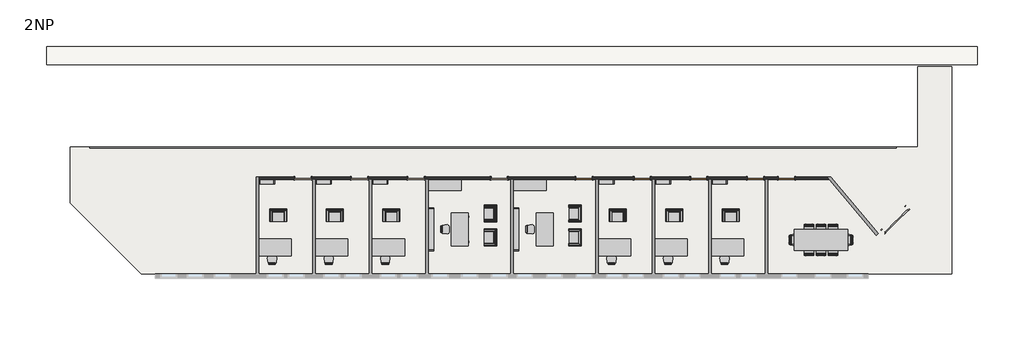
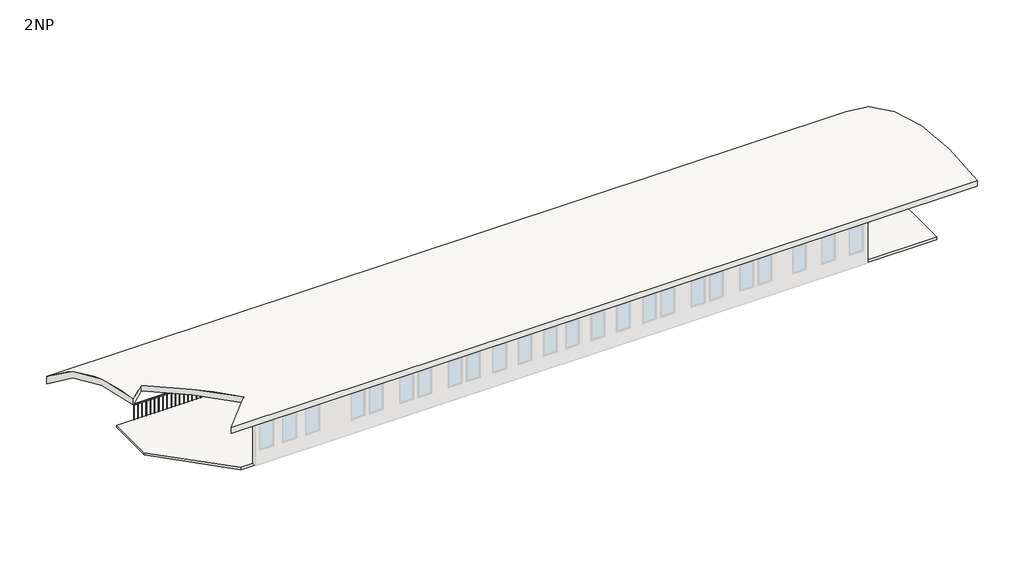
# One storey, part 2 of 2: 45 furniture elements, 5 doors, 1 railing, 1 roof, 1 slab, 1 wall.
"""IFC4 building model written with IfcOpenShell, lengths in millimetres."""

from ifc_helpers import new_model, si_unit, frame, origin, place, context, project, spatial, polyline, circle_curve, ellipse_curve, outline, extrude, faceted_brep, transform, mapped, element, save
from ifc_brep_helpers import plane_surface, cylinder_surface, revolved_surface, advanced_brep
from components import m_single_flush_0915_x_2032mm_1012e85d, m_single_flush_0915_x_2032mm_d7cd756b, chair_desk_4_chair_task_arms_3b363349, chair_desk_5_chair_task_b7f3823b, m_chair_corbu_m_chair_corbu_2764bdef, m_chair_desk_desk_chair_ccc35c8f, m_credenza_1830_x_0610mm_1080a9db, m_desk_1830_x_915mm_d81ff609, m_shelving_0915_x_0254_x_1830mm_1d5e155e, m_shelving_2440_x_0305_x_2134mm_59c1a9e4, table_conference_w_chairs_1200_x_3050mm_930714f4, railing_1100mm_11e5196f, railing_1100mm_f5e6f717

model = new_model("IFC4")

# Units and contexts
model_context = context("Model", 3, world=origin())
ifc_project = project(units=[si_unit("LENGTHUNIT", "METRE", prefix="MILLI")], contexts=[model_context])

# Site, building, storey
site = spatial("IfcSite", under=ifc_project)
building = spatial("IfcBuilding", under=site)
storey = spatial("IfcBuildingStorey", under=building, Name="2NP", Elevation=4000.0)

# Doors
placement = place(None, origin())
m_single_flush_0915_x_2032mm_shape = m_single_flush_0915_x_2032mm_1012e85d(model_context)
element("IfcDoor", 1, ObjectType="M_Single-Flush : 0915 x 2032mm", at=placement, inside=storey, context=model_context, shape_type="MappedRepresentation", body=[
    mapped(m_single_flush_0915_x_2032mm_shape, transform((24162.4255273, 791.5551306, 4000.0), x_axis=(1.0, 0.0, 0.0), y_axis=(0.0, 1.0, 0.0), z_axis=(0.0, 0.0, 1.0))),
])
element("IfcDoor", 2, ObjectType="M_Single-Flush : 0915 x 2032mm", at=placement, inside=storey, context=model_context, shape_type="MappedRepresentation", body=[
    mapped(m_single_flush_0915_x_2032mm_shape, transform((27362.4255273, 791.5551306, 4000.0), x_axis=(1.0, 0.0, 0.0), y_axis=(0.0, 1.0, 0.0), z_axis=(0.0, 0.0, 1.0))),
])
element("IfcDoor", 3, ObjectType="M_Single-Flush : 0915 x 2032mm", at=placement, inside=storey, context=model_context, shape_type="MappedRepresentation", body=[
    mapped(m_single_flush_0915_x_2032mm_shape, transform((20962.4255273, 791.5551306, 4000.0), x_axis=(1.0, 0.0, 0.0), y_axis=(0.0, 1.0, 0.0), z_axis=(0.0, 0.0, 1.0))),
])
element("IfcDoor", 4, ObjectType="M_Single-Flush : 0915 x 2032mm", at=placement, inside=storey, context=model_context, shape_type="MappedRepresentation", body=[
    mapped(m_single_flush_0915_x_2032mm_shape, transform((17662.4255273, 791.5551306, 4000.0), x_axis=(1.0, 0.0, 0.0), y_axis=(0.0, 1.0, 0.0), z_axis=(0.0, 0.0, 1.0))),
])
m_single_flush_0915_x_2032mm_2_shape = m_single_flush_0915_x_2032mm_d7cd756b(model_context)
element("IfcDoor", 5, ObjectType="M_Single-Flush : 0915 x 2032mm", at=placement, inside=storey, context=model_context, shape_type="MappedRepresentation", body=[
    mapped(m_single_flush_0915_x_2032mm_2_shape, transform((29115.9255273, 791.5551306, 4000.0), x_axis=(-1.0, 0.0, 0.0), y_axis=(0.0, -1.0, 0.0), z_axis=(0.0, 0.0, 1.0))),
])

# Furniture
chair_desk_4_chair_task_arms_shape = chair_desk_4_chair_task_arms_3b363349(model_context)
element("IfcFurniture", 6, ObjectType="Chair - Desk (4) : Chair-Task Arms", at=placement, inside=storey, context=model_context, shape_type="MappedRepresentation", body=[
    mapped(chair_desk_4_chair_task_arms_shape, transform((32615.6301008, -2847.5591131, 4000.0), x_axis=(0.0, 1.0, 0.0), y_axis=(-1.0, 0.0, 0.0), z_axis=(0.0, 0.0, 1.0))),
])
element("IfcFurniture", 7, ObjectType="Chair - Desk (4) : Chair-Task Arms", at=placement, inside=storey, context=model_context, shape_type="MappedRepresentation", body=[
    mapped(chair_desk_4_chair_task_arms_shape, transform((29527.7382975, -2565.5774738, 4000.0), x_axis=(0.0, -1.0000000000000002, 0.0), y_axis=(1.0000000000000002, 0.0, 0.0), z_axis=(0.0, 0.0, 1.0))),
])
chair_desk_5_chair_task_shape = chair_desk_5_chair_task_b7f3823b(model_context)
element("IfcFurniture", 8, ObjectType="Chair - Desk (5) : Chair-Task", at=placement, inside=storey, context=model_context, shape_type="MappedRepresentation", body=[
    mapped(chair_desk_5_chair_task_shape, transform((31897.6750188, -2087.6223918, 4000.0), x_axis=(-1.0, 0.0, 0.0), y_axis=(0.0, -1.0, 0.0), z_axis=(0.0, 0.0, 1.0))),
])
element("IfcFurniture", 9, ObjectType="Chair - Desk (5) : Chair-Task", at=placement, inside=storey, context=model_context, shape_type="MappedRepresentation", body=[
    mapped(chair_desk_5_chair_task_shape, transform((31615.6933794, -3325.5141951, 4000.0), x_axis=(1.0, 0.0, 0.0), y_axis=(0.0, 1.0, 0.0), z_axis=(0.0, 0.0, 1.0))),
])
element("IfcFurniture", 10, ObjectType="Chair - Desk (5) : Chair-Task", at=placement, inside=storey, context=model_context, shape_type="MappedRepresentation", body=[
    mapped(chair_desk_5_chair_task_shape, transform((30527.9250188, -2087.6223918, 4000.0), x_axis=(-1.0, 0.0, 0.0), y_axis=(0.0, -1.0, 0.0), z_axis=(0.0, 0.0, 1.0))),
])
element("IfcFurniture", 11, ObjectType="Chair - Desk (5) : Chair-Task", at=placement, inside=storey, context=model_context, shape_type="MappedRepresentation", body=[
    mapped(chair_desk_5_chair_task_shape, transform((30245.9433794, -3325.5141951, 4000.0), x_axis=(1.0, 0.0, 0.0), y_axis=(0.0, 1.0, 0.0), z_axis=(0.0, 0.0, 1.0))),
])
element("IfcFurniture", 12, ObjectType="Chair - Desk (5) : Chair-Task", at=placement, inside=storey, context=model_context, shape_type="MappedRepresentation", body=[
    mapped(chair_desk_5_chair_task_shape, transform((31212.8000188, -2087.6223918, 4000.0), x_axis=(-1.0, 0.0, 0.0), y_axis=(0.0, -1.0, 0.0), z_axis=(0.0, 0.0, 1.0))),
])
element("IfcFurniture", 13, ObjectType="Chair - Desk (5) : Chair-Task", at=placement, inside=storey, context=model_context, shape_type="MappedRepresentation", body=[
    mapped(chair_desk_5_chair_task_shape, transform((30930.8183794, -3325.5141951, 4000.0), x_axis=(1.0, 0.0, 0.0), y_axis=(0.0, 1.0, 0.0), z_axis=(0.0, 0.0, 1.0))),
])
m_chair_corbu_m_chair_corbu_shape = m_chair_corbu_m_chair_corbu_2764bdef(model_context)
element("IfcFurniture", 14, ObjectType="M_Chair-Corbu : M_Chair-Corbu", at=placement, inside=storey, context=model_context, shape_type="MappedRepresentation", body=[
    mapped(m_chair_corbu_m_chair_corbu_shape, transform((6189.3517568, -1787.3719186, 4000.0), x_axis=(1.0, 0.0, 0.0), y_axis=(0.0, 1.0, 0.0), z_axis=(0.0, 0.0, 1.0))),
])
element("IfcFurniture", 15, ObjectType="M_Chair-Corbu : M_Chair-Corbu", at=placement, inside=storey, context=model_context, shape_type="MappedRepresentation", body=[
    mapped(m_chair_corbu_m_chair_corbu_shape, transform((-210.6482432, -1787.3719186, 4000.0), x_axis=(1.0, 0.0, 0.0), y_axis=(0.0, 1.0, 0.0), z_axis=(0.0, 0.0, 1.0))),
])
element("IfcFurniture", 16, ObjectType="M_Chair-Corbu : M_Chair-Corbu", at=placement, inside=storey, context=model_context, shape_type="MappedRepresentation", body=[
    mapped(m_chair_corbu_m_chair_corbu_shape, transform((2989.3517568, -1787.3719186, 4000.0), x_axis=(1.0, 0.0, 0.0), y_axis=(0.0, 1.0, 0.0), z_axis=(0.0, 0.0, 1.0))),
])
element("IfcFurniture", 17, ObjectType="M_Chair-Corbu : M_Chair-Corbu", at=placement, inside=storey, context=model_context, shape_type="MappedRepresentation", body=[
    mapped(m_chair_corbu_m_chair_corbu_shape, transform((22189.3517568, -1787.3719186, 4000.0), x_axis=(1.0, 0.0, 0.0), y_axis=(0.0, 1.0, 0.0), z_axis=(0.0, 0.0, 1.0))),
])
element("IfcFurniture", 18, ObjectType="M_Chair-Corbu : M_Chair-Corbu", at=placement, inside=storey, context=model_context, shape_type="MappedRepresentation", body=[
    mapped(m_chair_corbu_m_chair_corbu_shape, transform((25389.3517568, -1787.3719186, 4000.0), x_axis=(1.0, 0.0, 0.0), y_axis=(0.0, 1.0, 0.0), z_axis=(0.0, 0.0, 1.0))),
])
element("IfcFurniture", 19, ObjectType="M_Chair-Corbu : M_Chair-Corbu", at=placement, inside=storey, context=model_context, shape_type="MappedRepresentation", body=[
    mapped(m_chair_corbu_m_chair_corbu_shape, transform((11895.9484781, -647.2210989, 4000.0), x_axis=(0.0, -1.0, 0.0), y_axis=(1.0, 0.0, 0.0), z_axis=(0.0, 0.0, 1.0))),
])
element("IfcFurniture", 20, ObjectType="M_Chair-Corbu : M_Chair-Corbu", at=placement, inside=storey, context=model_context, shape_type="MappedRepresentation", body=[
    mapped(m_chair_corbu_m_chair_corbu_shape, transform((18989.3517568, -1787.3719186, 4000.0), x_axis=(1.0, 0.0, 0.0), y_axis=(0.0, 1.0, 0.0), z_axis=(0.0, 0.0, 1.0))),
])
element("IfcFurniture", 21, ObjectType="M_Chair-Corbu : M_Chair-Corbu", at=placement, inside=storey, context=model_context, shape_type="MappedRepresentation", body=[
    mapped(m_chair_corbu_m_chair_corbu_shape, transform((11895.9484781, -1992.4210989, 4000.0), x_axis=(0.0, -1.0, 0.0), y_axis=(1.0, 0.0, 0.0), z_axis=(0.0, 0.0, 1.0))),
])
element("IfcFurniture", 22, ObjectType="M_Chair-Corbu : M_Chair-Corbu", at=placement, inside=storey, context=model_context, shape_type="MappedRepresentation", body=[
    mapped(m_chair_corbu_m_chair_corbu_shape, transform((16695.9484781, -647.2210989, 4000.0), x_axis=(0.0, -1.0, 0.0), y_axis=(1.0, 0.0, 0.0), z_axis=(0.0, 0.0, 1.0))),
])
element("IfcFurniture", 23, ObjectType="M_Chair-Corbu : M_Chair-Corbu", at=placement, inside=storey, context=model_context, shape_type="MappedRepresentation", body=[
    mapped(m_chair_corbu_m_chair_corbu_shape, transform((16695.9484781, -1992.4210989, 4000.0), x_axis=(0.0, -1.0, 0.0), y_axis=(1.0, 0.0, 0.0), z_axis=(0.0, 0.0, 1.0))),
])
m_chair_desk_desk_chair_shape = m_chair_desk_desk_chair_ccc35c8f(model_context)
element("IfcFurniture", 24, ObjectType="M_Chair-Desk : Desk Chair", at=placement, inside=storey, context=model_context, shape_type="MappedRepresentation", body=[
    mapped(m_chair_desk_desk_chair_shape, transform((19.9255273, -4017.6948694, 4000.0), x_axis=(1.0, 0.0, 0.0), y_axis=(0.0, 1.0, 0.0), z_axis=(0.0, 0.0, 1.0))),
])
element("IfcFurniture", 25, ObjectType="M_Chair-Desk : Desk Chair", at=placement, inside=storey, context=model_context, shape_type="MappedRepresentation", body=[
    mapped(m_chair_desk_desk_chair_shape, transform((3219.9255273, -4017.6948694, 4000.0), x_axis=(1.0, 0.0, 0.0), y_axis=(0.0, 1.0, 0.0), z_axis=(0.0, 0.0, 1.0))),
])
element("IfcFurniture", 26, ObjectType="M_Chair-Desk : Desk Chair", at=placement, inside=storey, context=model_context, shape_type="MappedRepresentation", body=[
    mapped(m_chair_desk_desk_chair_shape, transform((6419.9255273, -4017.6948694, 4000.0), x_axis=(1.0, 0.0, 0.0), y_axis=(0.0, 1.0, 0.0), z_axis=(0.0, 0.0, 1.0))),
])
element("IfcFurniture", 27, ObjectType="M_Chair-Desk : Desk Chair", at=placement, inside=storey, context=model_context, shape_type="MappedRepresentation", body=[
    mapped(m_chair_desk_desk_chair_shape, transform((22419.9255273, -4017.6948694, 4000.0), x_axis=(1.0, 0.0, 0.0), y_axis=(0.0, 1.0, 0.0), z_axis=(0.0, 0.0, 1.0))),
])
element("IfcFurniture", 28, ObjectType="M_Chair-Desk : Desk Chair", at=placement, inside=storey, context=model_context, shape_type="MappedRepresentation", body=[
    mapped(m_chair_desk_desk_chair_shape, transform((25619.9255273, -4017.6948694, 4000.0), x_axis=(1.0, 0.0, 0.0), y_axis=(0.0, 1.0, 0.0), z_axis=(0.0, 0.0, 1.0))),
])
element("IfcFurniture", 29, ObjectType="M_Chair-Desk : Desk Chair", at=placement, inside=storey, context=model_context, shape_type="MappedRepresentation", body=[
    mapped(m_chair_desk_desk_chair_shape, transform((9635.1978774, -2107.9948694, 4000.0), x_axis=(0.0, -1.0, 0.0), y_axis=(1.0, 0.0, 0.0), z_axis=(0.0, 0.0, 1.0))),
])
element("IfcFurniture", 30, ObjectType="M_Chair-Desk : Desk Chair", at=placement, inside=storey, context=model_context, shape_type="MappedRepresentation", body=[
    mapped(m_chair_desk_desk_chair_shape, transform((19219.9255273, -4017.6948694, 4000.0), x_axis=(1.0, 0.0, 0.0), y_axis=(0.0, 1.0, 0.0), z_axis=(0.0, 0.0, 1.0))),
])
element("IfcFurniture", 31, ObjectType="M_Chair-Desk : Desk Chair", at=placement, inside=storey, context=model_context, shape_type="MappedRepresentation", body=[
    mapped(m_chair_desk_desk_chair_shape, transform((14435.1978774, -2107.9948694, 4000.0), x_axis=(0.0, -1.0, 0.0), y_axis=(1.0, 0.0, 0.0), z_axis=(0.0, 0.0, 1.0))),
])
m_credenza_1830_x_0610mm_shape = m_credenza_1830_x_0610mm_1080a9db(model_context)
element("IfcFurniture", 32, ObjectType="M_Credenza : 1830 x 0610mm", at=placement, inside=storey, context=model_context, shape_type="MappedRepresentation", body=[
    mapped(m_credenza_1830_x_0610mm_shape, transform((9713.881265, 412.7248027, 4000.0), x_axis=(1.0, 0.0, 0.0), y_axis=(0.0, 1.0, 0.0), z_axis=(0.0, 0.0, 1.0))),
])
element("IfcFurniture", 33, ObjectType="M_Credenza : 1830 x 0610mm", at=placement, inside=storey, context=model_context, shape_type="MappedRepresentation", body=[
    mapped(m_credenza_1830_x_0610mm_shape, transform((14513.881265, 412.7248027, 4000.0), x_axis=(1.0, 0.0, 0.0), y_axis=(0.0, 1.0, 0.0), z_axis=(0.0, 0.0, 1.0))),
])
m_desk_1830_x_915mm_shape = m_desk_1830_x_915mm_d81ff609(model_context)
element("IfcFurniture", 34, ObjectType="M_Desk : 1830 x 915mm", at=placement, inside=storey, context=model_context, shape_type="MappedRepresentation", body=[
    mapped(m_desk_1830_x_915mm_shape, transform((-741.5744727, -3592.6948694, 4000.0), x_axis=(1.0, 0.0, 0.0), y_axis=(0.0, 1.0, 0.0), z_axis=(0.0, 0.0, 1.0))),
])
element("IfcFurniture", 35, ObjectType="M_Desk : 1830 x 915mm", at=placement, inside=storey, context=model_context, shape_type="MappedRepresentation", body=[
    mapped(m_desk_1830_x_915mm_shape, transform((2458.4255273, -3592.6948694, 4000.0), x_axis=(1.0, 0.0, 0.0), y_axis=(0.0, 1.0, 0.0), z_axis=(0.0, 0.0, 1.0))),
])
element("IfcFurniture", 36, ObjectType="M_Desk : 1830 x 915mm", at=placement, inside=storey, context=model_context, shape_type="MappedRepresentation", body=[
    mapped(m_desk_1830_x_915mm_shape, transform((5658.4255273, -3592.6948694, 4000.0), x_axis=(1.0, 0.0, 0.0), y_axis=(0.0, 1.0, 0.0), z_axis=(0.0, 0.0, 1.0))),
])
element("IfcFurniture", 37, ObjectType="M_Desk : 1830 x 915mm", at=placement, inside=storey, context=model_context, shape_type="MappedRepresentation", body=[
    mapped(m_desk_1830_x_915mm_shape, transform((21658.4255273, -3592.6948694, 4000.0), x_axis=(1.0, 0.0, 0.0), y_axis=(0.0, 1.0, 0.0), z_axis=(0.0, 0.0, 1.0))),
])
element("IfcFurniture", 38, ObjectType="M_Desk : 1830 x 915mm", at=placement, inside=storey, context=model_context, shape_type="MappedRepresentation", body=[
    mapped(m_desk_1830_x_915mm_shape, transform((24858.4255273, -3592.6948694, 4000.0), x_axis=(1.0, 0.0, 0.0), y_axis=(0.0, 1.0, 0.0), z_axis=(0.0, 0.0, 1.0))),
])
element("IfcFurniture", 39, ObjectType="M_Desk : 1830 x 915mm", at=placement, inside=storey, context=model_context, shape_type="MappedRepresentation", body=[
    mapped(m_desk_1830_x_915mm_shape, transform((10176.162903, -1192.9948694, 4000.0), x_axis=(0.0, -1.0, 0.0), y_axis=(1.0, 0.0, 0.0), z_axis=(0.0, 0.0, 1.0))),
])
element("IfcFurniture", 40, ObjectType="M_Desk : 1830 x 915mm", at=placement, inside=storey, context=model_context, shape_type="MappedRepresentation", body=[
    mapped(m_desk_1830_x_915mm_shape, transform((18458.4255273, -3592.6948694, 4000.0), x_axis=(1.0, 0.0, 0.0), y_axis=(0.0, 1.0, 0.0), z_axis=(0.0, 0.0, 1.0))),
])
element("IfcFurniture", 41, ObjectType="M_Desk : 1830 x 915mm", at=placement, inside=storey, context=model_context, shape_type="MappedRepresentation", body=[
    mapped(m_desk_1830_x_915mm_shape, transform((14976.162903, -1192.9948694, 4000.0), x_axis=(0.0, -1.0, 0.0), y_axis=(1.0, 0.0, 0.0), z_axis=(0.0, 0.0, 1.0))),
])
m_shelving_0915_x_0254_x_1830mm_shape = m_shelving_0915_x_0254_x_1830mm_1d5e155e(model_context)
element("IfcFurniture", 42, ObjectType="M_Shelving : 0915 x 0254 x 1830mm", at=placement, inside=storey, context=model_context, shape_type="MappedRepresentation", body=[
    mapped(m_shelving_0915_x_0254_x_1830mm_shape, transform((-284.0744727, 290.5051306, 4000.0), x_axis=(-1.0, 0.0, 0.0), y_axis=(0.0, -1.0, 0.0), z_axis=(0.0, 0.0, 1.0))),
])
element("IfcFurniture", 43, ObjectType="M_Shelving : 0915 x 0254 x 1830mm", at=placement, inside=storey, context=model_context, shape_type="MappedRepresentation", body=[
    mapped(m_shelving_0915_x_0254_x_1830mm_shape, transform((2915.9255273, 290.5051306, 4000.0), x_axis=(-1.0, 0.0, 0.0), y_axis=(0.0, -1.0, 0.0), z_axis=(0.0, 0.0, 1.0))),
])
element("IfcFurniture", 44, ObjectType="M_Shelving : 0915 x 0254 x 1830mm", at=placement, inside=storey, context=model_context, shape_type="MappedRepresentation", body=[
    mapped(m_shelving_0915_x_0254_x_1830mm_shape, transform((6115.9255273, 290.5051306, 4000.0), x_axis=(-1.0, 0.0, 0.0), y_axis=(0.0, -1.0, 0.0), z_axis=(0.0, 0.0, 1.0))),
])
element("IfcFurniture", 45, ObjectType="M_Shelving : 0915 x 0254 x 1830mm", at=placement, inside=storey, context=model_context, shape_type="MappedRepresentation", body=[
    mapped(m_shelving_0915_x_0254_x_1830mm_shape, transform((22115.9255273, 290.5051306, 4000.0), x_axis=(-1.0, 0.0, 0.0), y_axis=(0.0, -1.0, 0.0), z_axis=(0.0, 0.0, 1.0))),
])
element("IfcFurniture", 46, ObjectType="M_Shelving : 0915 x 0254 x 1830mm", at=placement, inside=storey, context=model_context, shape_type="MappedRepresentation", body=[
    mapped(m_shelving_0915_x_0254_x_1830mm_shape, transform((25315.9255273, 290.5051306, 4000.0), x_axis=(-1.0, 0.0, 0.0), y_axis=(0.0, -1.0, 0.0), z_axis=(0.0, 0.0, 1.0))),
])
element("IfcFurniture", 47, ObjectType="M_Shelving : 0915 x 0254 x 1830mm", at=placement, inside=storey, context=model_context, shape_type="MappedRepresentation", body=[
    mapped(m_shelving_0915_x_0254_x_1830mm_shape, transform((18915.9255273, 290.5051306, 4000.0), x_axis=(-1.0, 0.0, 0.0), y_axis=(0.0, -1.0, 0.0), z_axis=(0.0, 0.0, 1.0))),
])
m_shelving_2440_x_0305_x_2134mm_shape = m_shelving_2440_x_0305_x_2134mm_59c1a9e4(model_context)
element("IfcFurniture", 48, ObjectType="M_Shelving : 2440 x 0305 x 2134mm", at=placement, inside=storey, context=model_context, shape_type="MappedRepresentation", body=[
    mapped(m_shelving_2440_x_0305_x_2134mm_shape, transform((9315.7255273, -2107.9948694, 4000.0), x_axis=(0.0, -1.0, 0.0), y_axis=(1.0, 0.0, 0.0), z_axis=(0.0, 0.0, 1.0))),
])
element("IfcFurniture", 49, ObjectType="M_Shelving : 2440 x 0305 x 2134mm", at=placement, inside=storey, context=model_context, shape_type="MappedRepresentation", body=[
    mapped(m_shelving_2440_x_0305_x_2134mm_shape, transform((14115.7255273, -2107.9948694, 4000.0), x_axis=(0.0, -1.0, 0.0), y_axis=(1.0, 0.0, 0.0), z_axis=(0.0, 0.0, 1.0))),
])
table_conference_w_chairs_1200_x_3050mm_shape = table_conference_w_chairs_1200_x_3050mm_930714f4(model_context)
element("IfcFurniture", 50, ObjectType="Table - Conference w Chairs : 1200 x 3050mm", at=placement, inside=storey, context=model_context, shape_type="MappedRepresentation", body=[
    mapped(table_conference_w_chairs_1200_x_3050mm_shape, transform((31071.6841991, -2706.5682935, 4000.0), x_axis=(-1.0, 0.0, 0.0), y_axis=(0.0, -1.0, 0.0), z_axis=(0.0, 0.0, 1.0))),
])

# Railing
railing_1100mm_shape = railing_1100mm_11e5196f(model_context)
railing_1100mm_2_shape = railing_1100mm_f5e6f717(model_context)
element("IfcRailing", 51, ObjectType="1100mm", at=placement, inside=storey, context=model_context, shape_type="MappedRepresentation", body=[
    mapped(railing_1100mm_shape, transform((0.0, 0.0, 0.0), x_axis=(1.0, 0.0, 0.0), y_axis=(0.0, 1.0, 0.0), z_axis=(0.0, 0.0, 1.0))),
    mapped(railing_1100mm_2_shape, transform((0.0, 0.0, 0.0), x_axis=(1.0, 0.0, 0.0), y_axis=(0.0, 1.0, 0.0), z_axis=(0.0, 0.0, 1.0))),
])

# Roof
element("IfcRoof", 52, ObjectType="Generic - 400mm", at=placement, inside=storey, context=model_context, shape_type="AdvancedBrep", body=[
    advanced_brep(
    [(-12744.3244727, 8250.6718533, 4433.8336676), (-12744.3244727, 8250.6718533, 3896.1596529), (-12744.3244727, -1668.428028, 8450.4441492), (-12744.3244727, -1668.428028, 8853.2294259), (39922.6755273, 8250.6718533, 4433.8336676), (39922.6755273, -6745.0106033, 8733.7764183), (39922.6755273, -6745.0106033, 8328.2515718), (39922.6755273, 8250.6718533, 3896.1596529), (-11544.3244727, -468.428028, 8672.2444656), (-7254.3076313, -4758.4448694, 8950.2027711), (-9240.8733652, -6745.0106033, 8733.7764183), (-9240.8733652, -6745.0106033, 8328.2515718), (-7254.3076313, -4758.4448694, 8549.6141311), (-11544.3244727, -468.428028, 8265.2936641)],
    [
        (0, 1),
        (1, 2, circle_curve(frame((-12744.3244727, -3782.5530793, -9232.9575956), z_axis=(1.0, 0.0, 0.0), x_axis=(0.0, -1.0, 0.0)), 17809.3296337)),
        (2, 3),
        (3, 0, circle_curve(frame((-12744.3244727, -3782.5530793, -9232.9575956), z_axis=(-1.0, 0.0, 0.0), x_axis=(0.0, -1.0, 0.0)), 18209.3296337)),
        (4, 5, circle_curve(frame((39922.6755273, -3782.5530793, -9232.9575956), z_axis=(1.0, 0.0, 0.0), x_axis=(0.0, -1.0, 0.0)), 18209.3296337)),
        (5, 6),
        (6, 7, circle_curve(frame((39922.6755273, -3782.5530793, -9232.9575956), z_axis=(-1.0, 0.0, 0.0), x_axis=(0.0, -1.0, 0.0)), 17809.3296337)),
        (7, 4),
        (4, 0),
        (3, 8, ellipse_curve(frame((-14858.449524, -3782.5530793, -9232.9575956), z_axis=(-0.707106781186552, 0.7071067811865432, 0.0), x_axis=(-0.707106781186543, -0.707106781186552, 0.0)), 25751.8809297, 18209.3296337)),
        (8, 9, ellipse_curve(frame((-8230.1994214, -3782.5530793, -9232.9575956), z_axis=(0.7071067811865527, 0.7071067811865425, 0.0), x_axis=(-0.7071067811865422, 0.7071067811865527, 0.0)), 25751.8809297, 18209.3296337)),
        (9, 10, ellipse_curve(frame((-6278.4158411, -3782.5530793, -9232.9575956), z_axis=(0.7071067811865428, -0.7071067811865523, 0.0), x_axis=(-0.7071067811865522, -0.7071067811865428, 0.0)), 25751.8809297, 18209.3296337)),
        (10, 5),
        (7, 1),
        (6, 11),
        (11, 12, ellipse_curve(frame((-6278.4158411, -3782.5530793, -9232.9575956), z_axis=(-0.7071067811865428, 0.7071067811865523, 0.0), x_axis=(0.7071067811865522, 0.7071067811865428, 0.0)), 25186.1955048, 17809.3296337)),
        (12, 13, ellipse_curve(frame((-8230.1994214, -3782.5530793, -9232.9575956), z_axis=(-0.7071067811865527, -0.7071067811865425, 0.0), x_axis=(0.7071067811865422, -0.7071067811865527, 0.0)), 25186.1955048, 17809.3296337)),
        (13, 2, ellipse_curve(frame((-14858.449524, -3782.5530793, -9232.9575956), z_axis=(0.707106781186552, -0.7071067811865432, 0.0), x_axis=(0.707106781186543, 0.707106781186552, 0.0)), 25186.1955048, 17809.3296337)),
        (10, 11),
        (13, 8),
        (9, 12),
    ],
    [
        plane_surface(frame((-12744.3244727, -21991.882713, -9232.9575956), z_axis=(-1.0, 0.0, 0.0), x_axis=(0.0, 0.0, 1.0))),
        plane_surface(frame((39922.6755273, -21991.882713, -9232.9575956), z_axis=(1.0, 0.0, 0.0), x_axis=(0.0, 0.0, -1.0))),
        cylinder_surface(frame((39922.6755273, -3782.5530793, -9232.9575956), z_axis=(-1.0, 0.0, 0.0), x_axis=(0.0, -1.0, 0.0)), 18209.3296337),
        plane_surface(frame((-12744.3244727, 8250.6718533, 4433.8336676), z_axis=(0.0, 1.0, 0.0), x_axis=(1.0, 0.0, 0.0))),
        revolved_surface(polyline([(39922.6755273, -21591.882713, -9232.9575956), (-32667.779157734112, -21591.882713, -9232.9575956)]), (39922.6755273, -3782.5530793, -9232.9575956), (1.0, 0.0, 0.0)),
        plane_surface(frame((-12744.3244727, -6745.0106033, 8328.2515718), z_axis=(0.0, -1.0, 0.0), x_axis=(1.0, 0.0, 0.0))),
        plane_surface(frame((-11544.3244727, -468.428028, 9280.7027287), z_axis=(0.707106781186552, -0.7071067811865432, 0.0), x_axis=(0.0, 0.0, -1.0))),
        plane_surface(frame((-9487.8076313, -6991.9448694, 9280.7027287), z_axis=(-0.7071067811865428, 0.7071067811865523, 0.0), x_axis=(0.0, 0.0, -1.0))),
        plane_surface(frame((-7254.3076313, -4758.4448694, 9280.7027287), z_axis=(-0.7071067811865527, -0.7071067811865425, 0.0), x_axis=(0.0, 0.0, -1.0))),
    ],
    [
        (0, [[1, 2, 3, 4]]),
        (1, [[5, 6, 7, 8]]),
        (2, [[-5, 9, -4, 10, 11, 12, 13]]),
        (3, [[-1, -9, -8, 14]]),
        (4, [[-7, 15, 16, 17, 18, -2, -14]]),
        (5, [[-6, -13, 19, -15]]),
        (6, [[20, -10, -3, -18]]),
        (7, [[21, -16, -19, -12]]),
        (8, [[-20, -17, -21, -11]]),
    ],
),
])

# Slab
element("IfcSlab", 53, ObjectType="Generic 150mm", at=placement, inside=storey, context=model_context, shape_type="SweptSolid", body=[
    extrude(outline(polyline([(-11410.8244727, -601.928028), (-11410.8244727, 2541.5551306), (36558.4255273, 2541.5551306), (36558.4255273, 7108.0551306), (38455.6755273, 7108.0551306), (38455.6755273, -4624.9448694), (-7387.8076313, -4624.9448694), (-11410.8244727, -601.928028)])), frame((0.0, 0.0, 3850.0), z_axis=(0.0, 0.0, 1.0), x_axis=(1.0, 0.0, 0.0)), (0.0, 0.0, 1.0), 150.0),
])

# Wall
element("IfcWall", 54, ObjectType="Interior - 138mm Partition (1-hr)", at=placement, inside=storey, context=model_context, shape_type="Brep", body=[
    faceted_brep([(20504.9255273, 860.8051306, 4000.0), (18119.9255273, 860.8051306, 4000.0), (18119.9255273, 860.8051306, 6032.0), (17204.9255273, 860.8051306, 6032.0), (17204.9255273, 860.8051306, 4000.0), (13319.9255273, 860.8051306, 4000.0), (13319.9255273, 860.8051306, 6032.0), (12404.9255273, 860.8051306, 6032.0), (12404.9255273, 860.8051306, 4000.0), (8619.9255273, 860.8051306, 4000.0), (8619.9255273, 860.8051306, 6032.0), (7704.9255273, 860.8051306, 6032.0), (7704.9255273, 860.8051306, 4000.0), (5419.9255273, 860.8051306, 4000.0), (5419.9255273, 860.8051306, 6032.0), (4504.9255273, 860.8051306, 6032.0), (4504.9255273, 860.8051306, 4000.0), (2219.9255273, 860.8051306, 4000.0), (2219.9255273, 860.8051306, 6032.0), (1304.9255273, 860.8051306, 6032.0), (1304.9255273, 860.8051306, 4000.0), (-741.5744727, 860.8051306, 4000.0), (-741.5744727, 860.8051306, 7700.0), (31432.8028061, 860.8051306, 7700.0), (31432.8028061, 860.8051306, 4000.0), (29573.4255273, 860.8051306, 4000.0), (29573.4255273, 860.8051306, 6032.0), (28658.4255273, 860.8051306, 6032.0), (28658.4255273, 860.8051306, 4000.0), (27819.9255273, 860.8051306, 4000.0), (27819.9255273, 860.8051306, 6032.0), (26904.9255273, 860.8051306, 6032.0), (26904.9255273, 860.8051306, 4000.0), (24619.9255273, 860.8051306, 4000.0), (24619.9255273, 860.8051306, 6032.0), (23704.9255273, 860.8051306, 6032.0), (23704.9255273, 860.8051306, 4000.0), (21419.9255273, 860.8051306, 4000.0), (21419.9255273, 860.8051306, 6032.0), (20504.9255273, 860.8051306, 6032.0), (18119.9255273, 722.3051306, 6032.0), (18119.9255273, 722.3051306, 4000.0), (18319.9255273, 722.3051306, 4000.0), (18458.4255273, 722.3051306, 4000.0), (20504.9255273, 722.3051306, 4000.0), (20504.9255273, 722.3051306, 6032.0), (21419.9255273, 722.3051306, 6032.0), (21419.9255273, 722.3051306, 4000.0), (21519.9255273, 722.3051306, 4000.0), (21658.4255273, 722.3051306, 4000.0), (23704.9255273, 722.3051306, 4000.0), (23704.9255273, 722.3051306, 6032.0), (24619.9255273, 722.3051306, 6032.0), (24619.9255273, 722.3051306, 4000.0), (24719.9255273, 722.3051306, 4000.0), (24858.4255273, 722.3051306, 4000.0), (26904.9255273, 722.3051306, 4000.0), (26904.9255273, 722.3051306, 6032.0), (27819.9255273, 722.3051306, 6032.0), (27819.9255273, 722.3051306, 4000.0), (27919.9255273, 722.3051306, 4000.0), (28058.4255273, 722.3051306, 4000.0), (28658.4255273, 722.3051306, 4000.0), (28658.4255273, 722.3051306, 6032.0), (29573.4255273, 722.3051306, 6032.0), (29573.4255273, 722.3051306, 4000.0), (31549.018105, 722.3051306, 4000.0), (31549.018105, 722.3051306, 7700.0), (28058.4255273, 722.3051306, 7700.0), (27919.9255273, 722.3051306, 7700.0), (24858.4255273, 722.3051306, 7700.0), (24719.9255273, 722.3051306, 7700.0), (21658.4255273, 722.3051306, 7700.0), (21519.9255273, 722.3051306, 7700.0), (18458.4255273, 722.3051306, 7700.0), (18319.9255273, 722.3051306, 7700.0), (13658.4255273, 722.3051306, 7700.0), (13519.9255273, 722.3051306, 7700.0), (8858.4255273, 722.3051306, 7700.0), (8719.9255273, 722.3051306, 7700.0), (5658.4255273, 722.3051306, 7700.0), (5519.9255273, 722.3051306, 7700.0), (2458.4255273, 722.3051306, 7700.0), (2319.9255273, 722.3051306, 7700.0), (-741.5744727, 722.3051306, 7700.0), (-741.5744727, 722.3051306, 4000.0), (1304.9255273, 722.3051306, 4000.0), (1304.9255273, 722.3051306, 6032.0), (2219.9255273, 722.3051306, 6032.0), (2219.9255273, 722.3051306, 4000.0), (2319.9255273, 722.3051306, 4000.0), (2458.4255273, 722.3051306, 4000.0), (4504.9255273, 722.3051306, 4000.0), (4504.9255273, 722.3051306, 6032.0), (5419.9255273, 722.3051306, 6032.0), (5419.9255273, 722.3051306, 4000.0), (5519.9255273, 722.3051306, 4000.0), (5658.4255273, 722.3051306, 4000.0), (7704.9255273, 722.3051306, 4000.0), (7704.9255273, 722.3051306, 6032.0), (8619.9255273, 722.3051306, 6032.0), (8619.9255273, 722.3051306, 4000.0), (8719.9255273, 722.3051306, 4000.0), (8858.4255273, 722.3051306, 4000.0), (12404.9255273, 722.3051306, 4000.0), (12404.9255273, 722.3051306, 6032.0), (13319.9255273, 722.3051306, 6032.0), (13319.9255273, 722.3051306, 4000.0), (13519.9255273, 722.3051306, 4000.0), (13658.4255273, 722.3051306, 4000.0), (17204.9255273, 722.3051306, 4000.0), (17204.9255273, 722.3051306, 6032.0)], [[[0, 1, 2, 3, 4, 5, 6, 7, 8, 9, 10, 11, 12, 13, 14, 15, 16, 17, 18, 19, 20, 21, 22, 23, 24, 25, 26, 27, 28, 29, 30, 31, 32, 33, 34, 35, 36, 37, 38, 39]], [[40, 41, 42, 43, 44, 45, 46, 47, 48, 49, 50, 51, 52, 53, 54, 55, 56, 57, 58, 59, 60, 61, 62, 63, 64, 65, 66, 67, 68, 69, 70, 71, 72, 73, 74, 75, 76, 77, 78, 79, 80, 81, 82, 83, 84, 85, 86, 87, 88, 89, 90, 91, 92, 93, 94, 95, 96, 97, 98, 99, 100, 101, 102, 103, 104, 105, 106, 107, 108, 109, 110, 111]], [[62, 61, 60, 59, 29, 28]], [[25, 24, 66, 65]], [[86, 85, 21, 20]], [[92, 91, 90, 89, 17, 16]], [[98, 97, 96, 95, 13, 12]], [[50, 49, 48, 47, 37, 36]], [[56, 55, 54, 53, 33, 32]], [[104, 103, 102, 101, 9, 8]], [[44, 43, 42, 41, 1, 0]], [[110, 109, 108, 107, 5, 4]], [[23, 22, 84, 83, 82, 81, 80, 79, 78, 77, 76, 75, 74, 73, 72, 71, 70, 69, 68, 67]], [[24, 23, 67, 66]], [[22, 21, 85, 84]], [[63, 62, 28, 27]], [[64, 63, 27, 26]], [[65, 64, 26, 25]], [[18, 17, 89, 88]], [[19, 18, 88, 87]], [[20, 19, 87, 86]], [[14, 13, 95, 94]], [[15, 14, 94, 93]], [[16, 15, 93, 92]], [[10, 9, 101, 100]], [[11, 10, 100, 99]], [[12, 11, 99, 98]], [[34, 33, 53, 52]], [[35, 34, 52, 51]], [[36, 35, 51, 50]], [[30, 29, 59, 58]], [[31, 30, 58, 57]], [[32, 31, 57, 56]], [[6, 5, 107, 106]], [[7, 6, 106, 105]], [[8, 7, 105, 104]], [[38, 37, 47, 46]], [[39, 38, 46, 45]], [[0, 39, 45, 44]], [[2, 1, 41, 40]], [[3, 2, 40, 111]], [[4, 3, 111, 110]]]),
])

save(model, "model.ifc")
